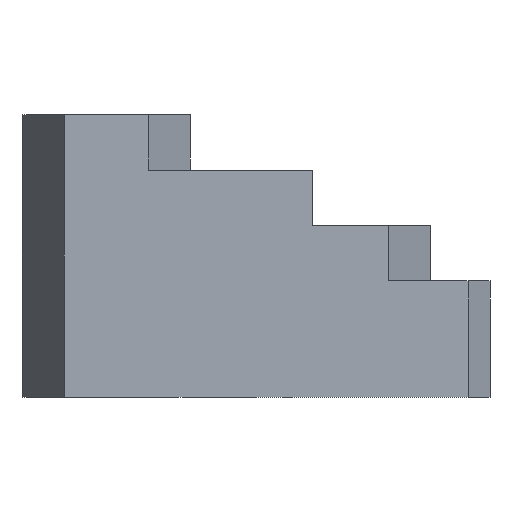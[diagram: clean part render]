
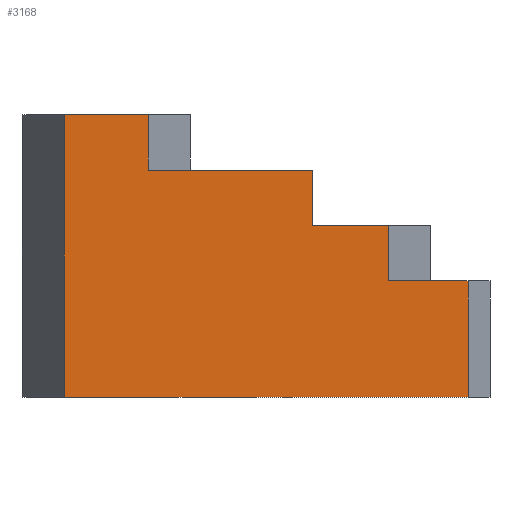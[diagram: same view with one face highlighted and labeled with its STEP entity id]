
A CAD part, left-side view. The second image highlights one B-rep face of the part: STEP entity #3168.
In plain terms, the highlighted planar face has unit normal (-1, 0, 0).
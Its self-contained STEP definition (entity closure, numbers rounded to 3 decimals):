
#28 = VECTOR ( 'NONE', #905, 1000. ) ;
#91 = ORIENTED_EDGE ( 'NONE', *, *, #3787, .F. ) ;
#137 = LINE ( 'NONE', #3053, #3802 ) ;
#154 = CARTESIAN_POINT ( 'NONE',  ( -76.25, -22.717, 60. ) ) ;
#165 = EDGE_CURVE ( 'NONE', #1821, #299, #3762, .T. ) ;
#299 = VERTEX_POINT ( 'NONE', #2490 ) ;
#379 = CARTESIAN_POINT ( 'NONE',  ( -76.25, -50.141, 60. ) ) ;
#665 = PLANE ( 'NONE',  #3251 ) ;
#683 = CARTESIAN_POINT ( 'NONE',  ( -76.25, -79.008, 40. ) ) ;
#687 = CARTESIAN_POINT ( 'NONE',  ( -76.25, -22.717, 80. ) ) ;
#725 = CARTESIAN_POINT ( 'NONE',  ( -76.25, -79.008, -2. ) ) ;
#730 = DIRECTION ( 'NONE',  ( 1., 0., 0. ) ) ;
#743 = LINE ( 'NONE', #379, #3520 ) ;
#789 = VERTEX_POINT ( 'NONE', #2056 ) ;
#814 = VECTOR ( 'NONE', #2982, 1000. ) ;
#905 = DIRECTION ( 'NONE',  ( 0., -1., 0. ) ) ;
#1048 = VECTOR ( 'NONE', #1886, 1000. ) ;
#1051 = CARTESIAN_POINT ( 'NONE',  ( -76.25, 66.773, 100. ) ) ;
#1149 = VERTEX_POINT ( 'NONE', #1856 ) ;
#1233 = LINE ( 'NONE', #2976, #3391 ) ;
#1375 = EDGE_CURVE ( 'NONE', #2610, #2013, #2053, .T. ) ;
#1432 = LINE ( 'NONE', #2889, #1048 ) ;
#1474 = LINE ( 'NONE', #687, #814 ) ;
#1536 = EDGE_LOOP ( 'NONE', ( #1993, #91, #4594, #3912, #4598, #2665, #1671, #1798, #4425, #3442 ) ) ;
#1559 = DIRECTION ( 'NONE',  ( 0., -1., 0. ) ) ;
#1649 = EDGE_CURVE ( 'NONE', #3131, #1149, #1233, .T. ) ;
#1671 = ORIENTED_EDGE ( 'NONE', *, *, #4435, .F. ) ;
#1785 = VECTOR ( 'NONE', #3516, 1000. ) ;
#1798 = ORIENTED_EDGE ( 'NONE', *, *, #165, .F. ) ;
#1812 = EDGE_CURVE ( 'NONE', #2254, #4287, #3436, .T. ) ;
#1821 = VERTEX_POINT ( 'NONE', #4546 ) ;
#1847 = VECTOR ( 'NONE', #4562, 1000. ) ;
#1856 = CARTESIAN_POINT ( 'NONE',  ( -76.25, -50.141, 40. ) ) ;
#1886 = DIRECTION ( 'NONE',  ( 0., 0., -1. ) ) ;
#1993 = ORIENTED_EDGE ( 'NONE', *, *, #4623, .T. ) ;
#2012 = CARTESIAN_POINT ( 'NONE',  ( -76.25, 36.462, 100. ) ) ;
#2013 = VERTEX_POINT ( 'NONE', #2396 ) ;
#2053 = LINE ( 'NONE', #2730, #1785 ) ;
#2056 = CARTESIAN_POINT ( 'NONE',  ( -76.25, 66.773, -2. ) ) ;
#2110 = VECTOR ( 'NONE', #4755, 1000. ) ;
#2127 = EDGE_CURVE ( 'NONE', #2013, #1821, #4179, .T. ) ;
#2185 = LINE ( 'NONE', #725, #2110 ) ;
#2254 = VERTEX_POINT ( 'NONE', #2811 ) ;
#2287 = CARTESIAN_POINT ( 'NONE',  ( -76.25, -79.008, -2. ) ) ;
#2322 = DIRECTION ( 'NONE',  ( 0., 0., -1. ) ) ;
#2396 = CARTESIAN_POINT ( 'NONE',  ( -76.25, 36.462, 100. ) ) ;
#2490 = CARTESIAN_POINT ( 'NONE',  ( -76.25, -22.717, 80. ) ) ;
#2522 = DIRECTION ( 'NONE',  ( 0., 0., -1. ) ) ;
#2610 = VERTEX_POINT ( 'NONE', #1051 ) ;
#2613 = DIRECTION ( 'NONE',  ( 0., 1., 0. ) ) ;
#2663 = CARTESIAN_POINT ( 'NONE',  ( -76.25, 0., 80. ) ) ;
#2665 = ORIENTED_EDGE ( 'NONE', *, *, #1812, .F. ) ;
#2730 = CARTESIAN_POINT ( 'NONE',  ( -76.25, 0., 100. ) ) ;
#2811 = CARTESIAN_POINT ( 'NONE',  ( -76.25, -22.717, 60. ) ) ;
#2889 = CARTESIAN_POINT ( 'NONE',  ( -76.25, -79.008, 40. ) ) ;
#2976 = CARTESIAN_POINT ( 'NONE',  ( -76.25, 0., 40. ) ) ;
#2981 = EDGE_CURVE ( 'NONE', #4287, #1149, #743, .T. ) ;
#2982 = DIRECTION ( 'NONE',  ( 0., 0., -1. ) ) ;
#3053 = CARTESIAN_POINT ( 'NONE',  ( -76.25, 66.773, 100. ) ) ;
#3131 = VERTEX_POINT ( 'NONE', #683 ) ;
#3168 = ADVANCED_FACE ( 'NONE', ( #4019 ), #665, .F. ) ;
#3251 = AXIS2_PLACEMENT_3D ( 'NONE', #3994, #730, #2522 ) ;
#3306 = VERTEX_POINT ( 'NONE', #2287 ) ;
#3391 = VECTOR ( 'NONE', #2613, 1000. ) ;
#3436 = LINE ( 'NONE', #154, #28 ) ;
#3442 = ORIENTED_EDGE ( 'NONE', *, *, #1375, .F. ) ;
#3516 = DIRECTION ( 'NONE',  ( 0., -1., 0. ) ) ;
#3520 = VECTOR ( 'NONE', #2322, 1000. ) ;
#3539 = CARTESIAN_POINT ( 'NONE',  ( -76.25, -50.141, 60. ) ) ;
#3762 = LINE ( 'NONE', #2663, #3865 ) ;
#3787 = EDGE_CURVE ( 'NONE', #3306, #789, #2185, .T. ) ;
#3802 = VECTOR ( 'NONE', #4624, 1000. ) ;
#3865 = VECTOR ( 'NONE', #1559, 1000. ) ;
#3912 = ORIENTED_EDGE ( 'NONE', *, *, #1649, .T. ) ;
#3994 = CARTESIAN_POINT ( 'NONE',  ( -76.25, 0., 100. ) ) ;
#4019 = FACE_OUTER_BOUND ( 'NONE', #1536, .T. ) ;
#4179 = LINE ( 'NONE', #2012, #1847 ) ;
#4287 = VERTEX_POINT ( 'NONE', #3539 ) ;
#4378 = EDGE_CURVE ( 'NONE', #3131, #3306, #1432, .T. ) ;
#4425 = ORIENTED_EDGE ( 'NONE', *, *, #2127, .F. ) ;
#4435 = EDGE_CURVE ( 'NONE', #299, #2254, #1474, .T. ) ;
#4546 = CARTESIAN_POINT ( 'NONE',  ( -76.25, 36.462, 80. ) ) ;
#4562 = DIRECTION ( 'NONE',  ( 0., 0., -1. ) ) ;
#4594 = ORIENTED_EDGE ( 'NONE', *, *, #4378, .F. ) ;
#4598 = ORIENTED_EDGE ( 'NONE', *, *, #2981, .F. ) ;
#4623 = EDGE_CURVE ( 'NONE', #2610, #789, #137, .T. ) ;
#4624 = DIRECTION ( 'NONE',  ( 0., 0., -1. ) ) ;
#4755 = DIRECTION ( 'NONE',  ( 0., 1., 0. ) ) ;
